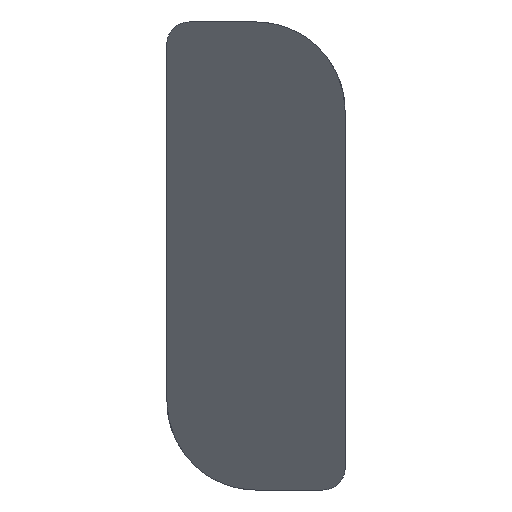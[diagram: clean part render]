
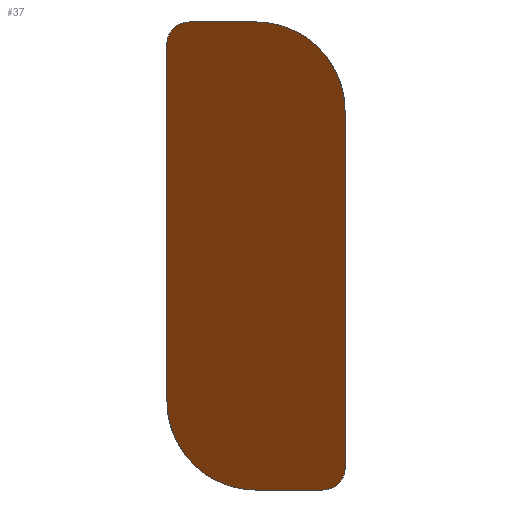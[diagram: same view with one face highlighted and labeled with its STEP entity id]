
A CAD part, left-side view. The second image highlights one B-rep face of the part: STEP entity #37.
In plain terms, the highlighted planar face has unit normal (-0.766, 0, -0.643).
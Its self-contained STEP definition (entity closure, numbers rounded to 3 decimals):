
#3 = CARTESIAN_POINT ( 'NONE',  ( -15., 3.793, 5.25 ) ) ;
#7 =( BOUNDED_CURVE ( )  B_SPLINE_CURVE ( 3, ( #467, #81, #512, #393 ),
 .UNSPECIFIED., .F., .F. ) 
 B_SPLINE_CURVE_WITH_KNOTS ( ( 4, 4 ),
 ( 0., 1.571 ),
 .UNSPECIFIED. ) 
 CURVE ( )  GEOMETRIC_REPRESENTATION_ITEM ( )  RATIONAL_B_SPLINE_CURVE ( ( 1., 0.805, 0.805, 1. ) ) 
 REPRESENTATION_ITEM ( '' )  );
#9 = VERTEX_POINT ( 'NONE', #517 ) ;
#15 = ORIENTED_EDGE ( 'NONE', *, *, #200, .T. ) ;
#21 = EDGE_CURVE ( 'NONE', #9, #458, #455, .T. ) ;
#22 = VECTOR ( 'NONE', #374, 1000. ) ;
#28 = CARTESIAN_POINT ( 'NONE',  ( -6.189, 2., -5.25 ) ) ;
#31 = EDGE_LOOP ( 'NONE', ( #535, #216, #481, #179, #337, #453, #428, #15 ) ) ;
#37 = ADVANCED_FACE ( 'NONE', ( #414 ), #357, .F. ) ;
#43 = CARTESIAN_POINT ( 'NONE',  ( -15., 2., 5.25 ) ) ;
#46 = CARTESIAN_POINT ( 'NONE',  ( -15., 4., 5.25 ) ) ;
#58 = CARTESIAN_POINT ( 'NONE',  ( -15., 3.5, 5.25 ) ) ;
#59 = CARTESIAN_POINT ( 'NONE',  ( -15., 4., 5.25 ) ) ;
#76 = AXIS2_PLACEMENT_3D ( 'NONE', #59, #136, #181 ) ;
#81 = CARTESIAN_POINT ( 'NONE',  ( -6.189, 0.207, -5.25 ) ) ;
#112 = CARTESIAN_POINT ( 'NONE',  ( -14.58, 4., 4.75 ) ) ;
#113 = LINE ( 'NONE', #46, #355 ) ;
#115 = VERTEX_POINT ( 'NONE', #28 ) ;
#121 =( BOUNDED_CURVE ( )  B_SPLINE_CURVE ( 3, ( #471, #174, #246, #43 ),
 .UNSPECIFIED., .F., .F. ) 
 B_SPLINE_CURVE_WITH_KNOTS ( ( 4, 4 ),
 ( 4.712, 6.283 ),
 .UNSPECIFIED. ) 
 CURVE ( )  GEOMETRIC_REPRESENTATION_ITEM ( )  RATIONAL_B_SPLINE_CURVE ( ( 1., 0.805, 0.805, 1. ) ) 
 REPRESENTATION_ITEM ( '' )  );
#132 = DIRECTION ( 'NONE',  ( -0.643, 0., 0.766 ) ) ;
#133 = VERTEX_POINT ( 'NONE', #244 ) ;
#136 = DIRECTION ( 'NONE',  ( 0.766, 0., 0.643 ) ) ;
#141 = VERTEX_POINT ( 'NONE', #112 ) ;
#158 = DIRECTION ( 'NONE',  ( 0., -1., 0. ) ) ;
#161 = CARTESIAN_POINT ( 'NONE',  ( -6.189, 2., -5.25 ) ) ;
#174 = CARTESIAN_POINT ( 'NONE',  ( -14.305, 0., 4.422 ) ) ;
#179 = ORIENTED_EDGE ( 'NONE', *, *, #272, .T. ) ;
#181 = DIRECTION ( 'NONE',  ( 0.643, 0., -0.766 ) ) ;
#183 = LINE ( 'NONE', #375, #22 ) ;
#187 = EDGE_CURVE ( 'NONE', #115, #263, #183, .T. ) ;
#191 = EDGE_CURVE ( 'NONE', #532, #192, #398, .T. ) ;
#192 = VERTEX_POINT ( 'NONE', #285 ) ;
#199 = CARTESIAN_POINT ( 'NONE',  ( -7.868, 4., -3.25 ) ) ;
#200 = EDGE_CURVE ( 'NONE', #133, #115, #218, .T. ) ;
#216 = ORIENTED_EDGE ( 'NONE', *, *, #489, .T. ) ;
#218 =( BOUNDED_CURVE ( )  B_SPLINE_CURVE ( 3, ( #199, #422, #530, #161 ),
 .UNSPECIFIED., .F., .F. ) 
 B_SPLINE_CURVE_WITH_KNOTS ( ( 4, 4 ),
 ( 1.571, 3.142 ),
 .UNSPECIFIED. ) 
 CURVE ( )  GEOMETRIC_REPRESENTATION_ITEM ( )  RATIONAL_B_SPLINE_CURVE ( ( 1., 0.805, 0.805, 1. ) ) 
 REPRESENTATION_ITEM ( '' )  );
#234 = CARTESIAN_POINT ( 'NONE',  ( -15., 0., 5.25 ) ) ;
#244 = CARTESIAN_POINT ( 'NONE',  ( -7.868, 4., -3.25 ) ) ;
#246 = CARTESIAN_POINT ( 'NONE',  ( -15., 0.828, 5.25 ) ) ;
#255 = CARTESIAN_POINT ( 'NONE',  ( -6.189, 0.5, -5.25 ) ) ;
#263 = VERTEX_POINT ( 'NONE', #255 ) ;
#267 = VECTOR ( 'NONE', #158, 1000. ) ;
#272 = EDGE_CURVE ( 'NONE', #458, #192, #121, .T. ) ;
#285 = CARTESIAN_POINT ( 'NONE',  ( -15., 2., 5.25 ) ) ;
#296 = CARTESIAN_POINT ( 'NONE',  ( -13.322, 0., 3.25 ) ) ;
#306 = CARTESIAN_POINT ( 'NONE',  ( -14.826, 4., 5.043 ) ) ;
#308 = DIRECTION ( 'NONE',  ( -0.643, 0., 0.766 ) ) ;
#337 = ORIENTED_EDGE ( 'NONE', *, *, #191, .F. ) ;
#348 = CARTESIAN_POINT ( 'NONE',  ( -14.58, 4., 4.75 ) ) ;
#355 = VECTOR ( 'NONE', #132, 1000. ) ;
#357 = PLANE ( 'NONE',  #76 ) ;
#367 =( BOUNDED_CURVE ( )  B_SPLINE_CURVE ( 3, ( #511, #3, #306, #348 ),
 .UNSPECIFIED., .F., .F. ) 
 B_SPLINE_CURVE_WITH_KNOTS ( ( 4, 4 ),
 ( 3.142, 4.712 ),
 .UNSPECIFIED. ) 
 CURVE ( )  GEOMETRIC_REPRESENTATION_ITEM ( )  RATIONAL_B_SPLINE_CURVE ( ( 1., 0.805, 0.805, 1. ) ) 
 REPRESENTATION_ITEM ( '' )  );
#374 = DIRECTION ( 'NONE',  ( 0., -1., 0. ) ) ;
#375 = CARTESIAN_POINT ( 'NONE',  ( -6.189, 4., -5.25 ) ) ;
#393 = CARTESIAN_POINT ( 'NONE',  ( -6.609, 0., -4.75 ) ) ;
#394 = EDGE_CURVE ( 'NONE', #532, #141, #367, .T. ) ;
#398 = LINE ( 'NONE', #536, #267 ) ;
#401 = EDGE_CURVE ( 'NONE', #133, #141, #113, .T. ) ;
#414 = FACE_OUTER_BOUND ( 'NONE', #31, .T. ) ;
#422 = CARTESIAN_POINT ( 'NONE',  ( -6.885, 4., -4.422 ) ) ;
#428 = ORIENTED_EDGE ( 'NONE', *, *, #401, .F. ) ;
#440 = VECTOR ( 'NONE', #308, 1000. ) ;
#453 = ORIENTED_EDGE ( 'NONE', *, *, #394, .T. ) ;
#455 = LINE ( 'NONE', #234, #440 ) ;
#458 = VERTEX_POINT ( 'NONE', #296 ) ;
#467 = CARTESIAN_POINT ( 'NONE',  ( -6.189, 0.5, -5.25 ) ) ;
#471 = CARTESIAN_POINT ( 'NONE',  ( -13.322, 0., 3.25 ) ) ;
#481 = ORIENTED_EDGE ( 'NONE', *, *, #21, .T. ) ;
#489 = EDGE_CURVE ( 'NONE', #263, #9, #7, .T. ) ;
#511 = CARTESIAN_POINT ( 'NONE',  ( -15., 3.5, 5.25 ) ) ;
#512 = CARTESIAN_POINT ( 'NONE',  ( -6.363, 0., -5.043 ) ) ;
#517 = CARTESIAN_POINT ( 'NONE',  ( -6.609, 0., -4.75 ) ) ;
#530 = CARTESIAN_POINT ( 'NONE',  ( -6.189, 3.172, -5.25 ) ) ;
#532 = VERTEX_POINT ( 'NONE', #58 ) ;
#535 = ORIENTED_EDGE ( 'NONE', *, *, #187, .T. ) ;
#536 = CARTESIAN_POINT ( 'NONE',  ( -15., 4., 5.25 ) ) ;
